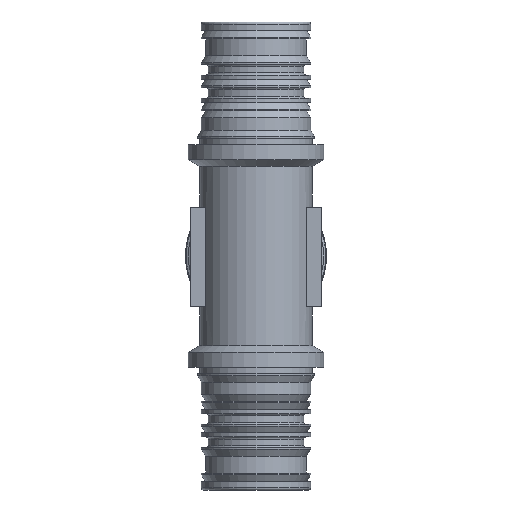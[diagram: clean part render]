
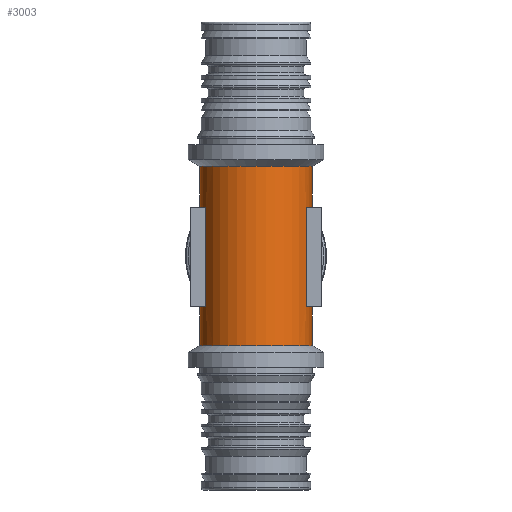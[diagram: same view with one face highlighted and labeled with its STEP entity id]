
A CAD part, front view. The second image highlights one B-rep face of the part: STEP entity #3003.
In plain terms, the highlighted cylindrical face has radius 13.25 mm (diameter 26.5 mm), a full revolution.
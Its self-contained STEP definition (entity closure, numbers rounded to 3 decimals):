
#41=B_SPLINE_CURVE_WITH_KNOTS('',3,(#4500,#4501,#4502,#4503,#4504,#4505,
#4506,#4507,#4508,#4509,#4510,#4511,#4512,#4513,#4514,#4515,#4516,#4517,
#4518,#4519,#4520,#4521),.UNSPECIFIED.,.F.,.F.,(4,2,2,2,2,2,2,2,2,2,4),
(-3.747,-3.561,-3.276,-2.742,
-2.475,-2.208,-1.941,-1.673,
-1.139,-0.854,-0.668),.UNSPECIFIED.);
#42=B_SPLINE_CURVE_WITH_KNOTS('',3,(#4533,#4534,#4535,#4536,#4537,#4538,
#4539,#4540,#4541,#4542,#4543,#4544),.UNSPECIFIED.,.F.,.F.,(4,2,2,2,2,4),
(2.208,2.475,2.742,3.276,3.561,
3.747),.UNSPECIFIED.);
#43=B_SPLINE_CURVE_WITH_KNOTS('',3,(#4551,#4552,#4553,#4554,#4555,#4556,
#4557,#4558,#4559,#4560,#4561,#4562),.UNSPECIFIED.,.F.,.F.,(4,2,2,2,2,4),
(0.668,0.854,1.139,1.673,1.941,
2.208),.UNSPECIFIED.);
#105=CYLINDRICAL_SURFACE('',#3215,13.25);
#148=FACE_BOUND('',#444,.T.);
#273=FACE_OUTER_BOUND('',#443,.T.);
#443=EDGE_LOOP('',(#2123,#2124,#2125,#2126,#2127,#2128));
#444=EDGE_LOOP('',(#2129,#2130,#2131,#2132,#2133,#2134,#2135,#2136,#2137,
#2138,#2139,#2140,#2141));
#636=LINE('',#4632,#835);
#643=LINE('',#4645,#842);
#651=LINE('',#4673,#850);
#652=LINE('',#4679,#851);
#653=LINE('',#4683,#852);
#654=LINE('',#4688,#853);
#655=LINE('',#4691,#854);
#835=VECTOR('',#3614,10.);
#842=VECTOR('',#3623,10.);
#850=VECTOR('',#3651,13.25);
#851=VECTOR('',#3658,10.);
#852=VECTOR('',#3661,10.);
#853=VECTOR('',#3666,10.);
#854=VECTOR('',#3669,10.);
#1046=CIRCLE('',#3216,13.25);
#1047=CIRCLE('',#3217,13.25);
#1048=CIRCLE('',#3218,13.25);
#1049=CIRCLE('',#3219,13.25);
#1050=CIRCLE('',#3220,13.25);
#1051=CIRCLE('',#3221,13.25);
#1052=CIRCLE('',#3222,13.25);
#1053=CIRCLE('',#3223,13.25);
#1244=VERTEX_POINT('',#4497);
#1245=VERTEX_POINT('',#4499);
#1250=VERTEX_POINT('',#4530);
#1251=VERTEX_POINT('',#4532);
#1254=VERTEX_POINT('',#4550);
#1262=VERTEX_POINT('',#4631);
#1267=VERTEX_POINT('',#4643);
#1275=VERTEX_POINT('',#4669);
#1276=VERTEX_POINT('',#4670);
#1277=VERTEX_POINT('',#4672);
#1278=VERTEX_POINT('',#4674);
#1279=VERTEX_POINT('',#4678);
#1280=VERTEX_POINT('',#4680);
#1281=VERTEX_POINT('',#4682);
#1282=VERTEX_POINT('',#4685);
#1283=VERTEX_POINT('',#4687);
#1284=VERTEX_POINT('',#4689);
#1578=EDGE_CURVE('',#1245,#1244,#41,.T.);
#1584=EDGE_CURVE('',#1251,#1250,#42,.T.);
#1588=EDGE_CURVE('',#1254,#1251,#43,.T.);
#1602=EDGE_CURVE('',#1245,#1262,#636,.T.);
#1609=EDGE_CURVE('',#1267,#1244,#643,.T.);
#1621=EDGE_CURVE('',#1275,#1276,#1046,.T.);
#1622=EDGE_CURVE('',#1275,#1277,#651,.T.);
#1623=EDGE_CURVE('',#1277,#1278,#1047,.T.);
#1624=EDGE_CURVE('',#1278,#1277,#1048,.T.);
#1625=EDGE_CURVE('',#1276,#1275,#1049,.T.);
#1626=EDGE_CURVE('',#1279,#1250,#652,.T.);
#1627=EDGE_CURVE('',#1280,#1279,#1050,.T.);
#1628=EDGE_CURVE('',#1281,#1280,#653,.T.);
#1629=EDGE_CURVE('',#1262,#1281,#1051,.T.);
#1630=EDGE_CURVE('',#1282,#1267,#1052,.T.);
#1631=EDGE_CURVE('',#1283,#1282,#654,.T.);
#1632=EDGE_CURVE('',#1284,#1283,#1053,.T.);
#1633=EDGE_CURVE('',#1254,#1284,#655,.T.);
#2123=ORIENTED_EDGE('',*,*,#1621,.F.);
#2124=ORIENTED_EDGE('',*,*,#1622,.T.);
#2125=ORIENTED_EDGE('',*,*,#1623,.T.);
#2126=ORIENTED_EDGE('',*,*,#1624,.T.);
#2127=ORIENTED_EDGE('',*,*,#1622,.F.);
#2128=ORIENTED_EDGE('',*,*,#1625,.F.);
#2129=ORIENTED_EDGE('',*,*,#1588,.T.);
#2130=ORIENTED_EDGE('',*,*,#1584,.T.);
#2131=ORIENTED_EDGE('',*,*,#1626,.F.);
#2132=ORIENTED_EDGE('',*,*,#1627,.F.);
#2133=ORIENTED_EDGE('',*,*,#1628,.F.);
#2134=ORIENTED_EDGE('',*,*,#1629,.F.);
#2135=ORIENTED_EDGE('',*,*,#1602,.F.);
#2136=ORIENTED_EDGE('',*,*,#1578,.T.);
#2137=ORIENTED_EDGE('',*,*,#1609,.F.);
#2138=ORIENTED_EDGE('',*,*,#1630,.F.);
#2139=ORIENTED_EDGE('',*,*,#1631,.F.);
#2140=ORIENTED_EDGE('',*,*,#1632,.F.);
#2141=ORIENTED_EDGE('',*,*,#1633,.F.);
#3003=ADVANCED_FACE('',(#273,#148),#105,.T.);
#3215=AXIS2_PLACEMENT_3D('',#4668,#3647,#3648);
#3216=AXIS2_PLACEMENT_3D('',#4671,#3649,#3650);
#3217=AXIS2_PLACEMENT_3D('',#4675,#3652,#3653);
#3218=AXIS2_PLACEMENT_3D('',#4676,#3654,#3655);
#3219=AXIS2_PLACEMENT_3D('',#4677,#3656,#3657);
#3220=AXIS2_PLACEMENT_3D('',#4681,#3659,#3660);
#3221=AXIS2_PLACEMENT_3D('',#4684,#3662,#3663);
#3222=AXIS2_PLACEMENT_3D('',#4686,#3664,#3665);
#3223=AXIS2_PLACEMENT_3D('',#4690,#3667,#3668);
#3614=DIRECTION('',(0.,0.,1.));
#3623=DIRECTION('',(0.,0.,-1.));
#3647=DIRECTION('center_axis',(0.,0.,1.));
#3648=DIRECTION('ref_axis',(0.,1.,0.));
#3649=DIRECTION('center_axis',(0.,0.,1.));
#3650=DIRECTION('ref_axis',(1.,0.,0.));
#3651=DIRECTION('',(0.,0.,-1.));
#3652=DIRECTION('center_axis',(0.,0.,1.));
#3653=DIRECTION('ref_axis',(1.,0.,0.));
#3654=DIRECTION('center_axis',(0.,0.,1.));
#3655=DIRECTION('ref_axis',(1.,0.,0.));
#3656=DIRECTION('center_axis',(0.,0.,1.));
#3657=DIRECTION('ref_axis',(1.,0.,0.));
#3658=DIRECTION('',(0.,0.,1.));
#3659=DIRECTION('center_axis',(0.,0.,1.));
#3660=DIRECTION('ref_axis',(0.,1.,0.));
#3661=DIRECTION('',(0.,0.,-1.));
#3662=DIRECTION('center_axis',(0.,0.,-1.));
#3663=DIRECTION('ref_axis',(0.,1.,0.));
#3664=DIRECTION('center_axis',(0.,0.,-1.));
#3665=DIRECTION('ref_axis',(0.,1.,0.));
#3666=DIRECTION('',(0.,0.,1.));
#3667=DIRECTION('center_axis',(0.,0.,1.));
#3668=DIRECTION('ref_axis',(0.,1.,0.));
#3669=DIRECTION('',(0.,0.,-1.));
#4497=CARTESIAN_POINT('',(-11.814,6.,64.493));
#4499=CARTESIAN_POINT('',(11.814,6.,64.493));
#4500=CARTESIAN_POINT('Ctrl Pts',(11.814,6.,64.493));
#4501=CARTESIAN_POINT('Ctrl Pts',(11.561,6.497,64.816));
#4502=CARTESIAN_POINT('Ctrl Pts',(11.279,6.976,65.15));
#4503=CARTESIAN_POINT('Ctrl Pts',(10.493,8.134,65.991));
#4504=CARTESIAN_POINT('Ctrl Pts',(9.953,8.785,66.497));
#4505=CARTESIAN_POINT('Ctrl Pts',(8.273,10.465,67.841));
#4506=CARTESIAN_POINT('Ctrl Pts',(6.854,11.476,68.704));
#4507=CARTESIAN_POINT('Ctrl Pts',(4.421,12.522,69.61));
#4508=CARTESIAN_POINT('Ctrl Pts',(3.56,12.795,69.849));
#4509=CARTESIAN_POINT('Ctrl Pts',(1.794,13.159,70.169));
#4510=CARTESIAN_POINT('Ctrl Pts',(0.89,13.25,70.25));
#4511=CARTESIAN_POINT('Ctrl Pts',(-0.89,13.25,70.25));
#4512=CARTESIAN_POINT('Ctrl Pts',(-1.794,13.159,70.169));
#4513=CARTESIAN_POINT('Ctrl Pts',(-3.56,12.795,69.849));
#4514=CARTESIAN_POINT('Ctrl Pts',(-4.421,12.522,69.61));
#4515=CARTESIAN_POINT('Ctrl Pts',(-6.854,11.476,68.704));
#4516=CARTESIAN_POINT('Ctrl Pts',(-8.273,10.465,67.841));
#4517=CARTESIAN_POINT('Ctrl Pts',(-9.953,8.785,66.497));
#4518=CARTESIAN_POINT('Ctrl Pts',(-10.493,8.134,65.991));
#4519=CARTESIAN_POINT('Ctrl Pts',(-11.279,6.976,65.15));
#4520=CARTESIAN_POINT('Ctrl Pts',(-11.561,6.497,64.816));
#4521=CARTESIAN_POINT('Ctrl Pts',(-11.814,6.,64.493));
#4530=CARTESIAN_POINT('',(11.814,6.,46.007));
#4532=CARTESIAN_POINT('',(0.,13.25,40.25));
#4533=CARTESIAN_POINT('Ctrl Pts',(0.,13.25,40.25));
#4534=CARTESIAN_POINT('Ctrl Pts',(0.89,13.25,40.25));
#4535=CARTESIAN_POINT('Ctrl Pts',(1.794,13.159,40.331));
#4536=CARTESIAN_POINT('Ctrl Pts',(3.56,12.795,40.651));
#4537=CARTESIAN_POINT('Ctrl Pts',(4.421,12.522,40.89));
#4538=CARTESIAN_POINT('Ctrl Pts',(6.854,11.476,41.796));
#4539=CARTESIAN_POINT('Ctrl Pts',(8.273,10.465,42.659));
#4540=CARTESIAN_POINT('Ctrl Pts',(9.953,8.785,44.003));
#4541=CARTESIAN_POINT('Ctrl Pts',(10.493,8.134,44.509));
#4542=CARTESIAN_POINT('Ctrl Pts',(11.279,6.976,45.35));
#4543=CARTESIAN_POINT('Ctrl Pts',(11.561,6.497,45.684));
#4544=CARTESIAN_POINT('Ctrl Pts',(11.814,6.,46.007));
#4550=CARTESIAN_POINT('',(-11.814,6.,46.007));
#4551=CARTESIAN_POINT('Ctrl Pts',(-11.814,6.,46.007));
#4552=CARTESIAN_POINT('Ctrl Pts',(-11.561,6.497,45.684));
#4553=CARTESIAN_POINT('Ctrl Pts',(-11.279,6.976,45.35));
#4554=CARTESIAN_POINT('Ctrl Pts',(-10.493,8.134,44.509));
#4555=CARTESIAN_POINT('Ctrl Pts',(-9.953,8.785,44.003));
#4556=CARTESIAN_POINT('Ctrl Pts',(-8.273,10.465,42.659));
#4557=CARTESIAN_POINT('Ctrl Pts',(-6.854,11.476,41.796));
#4558=CARTESIAN_POINT('Ctrl Pts',(-4.421,12.522,40.89));
#4559=CARTESIAN_POINT('Ctrl Pts',(-3.56,12.795,40.651));
#4560=CARTESIAN_POINT('Ctrl Pts',(-1.794,13.159,40.331));
#4561=CARTESIAN_POINT('Ctrl Pts',(-0.89,13.25,40.25));
#4562=CARTESIAN_POINT('Ctrl Pts',(0.,13.25,40.25));
#4631=CARTESIAN_POINT('',(11.814,6.,66.75));
#4632=CARTESIAN_POINT('',(11.814,6.,44.669));
#4643=CARTESIAN_POINT('',(-11.814,6.,66.75));
#4645=CARTESIAN_POINT('',(-11.814,6.,44.669));
#4668=CARTESIAN_POINT('Origin',(0.,0.,44.669));
#4669=CARTESIAN_POINT('',(0.,-13.25,76.412));
#4670=CARTESIAN_POINT('',(0.,13.25,76.412));
#4671=CARTESIAN_POINT('Origin',(0.,0.,76.412));
#4672=CARTESIAN_POINT('',(0.,-13.25,34.088));
#4673=CARTESIAN_POINT('',(0.,-13.25,44.669));
#4674=CARTESIAN_POINT('',(0.,13.25,34.088));
#4675=CARTESIAN_POINT('Origin',(0.,0.,34.088));
#4676=CARTESIAN_POINT('Origin',(0.,0.,34.088));
#4677=CARTESIAN_POINT('Origin',(0.,0.,76.412));
#4678=CARTESIAN_POINT('',(11.814,6.,43.25));
#4679=CARTESIAN_POINT('',(11.814,6.,44.669));
#4680=CARTESIAN_POINT('',(11.814,-6.,43.25));
#4681=CARTESIAN_POINT('Origin',(0.,0.,43.25));
#4682=CARTESIAN_POINT('',(11.814,-6.,66.75));
#4683=CARTESIAN_POINT('',(11.814,-6.,44.669));
#4684=CARTESIAN_POINT('Origin',(0.,0.,66.75));
#4685=CARTESIAN_POINT('',(-11.814,-6.,66.75));
#4686=CARTESIAN_POINT('Origin',(0.,0.,66.75));
#4687=CARTESIAN_POINT('',(-11.814,-6.,43.25));
#4688=CARTESIAN_POINT('',(-11.814,-6.,44.669));
#4689=CARTESIAN_POINT('',(-11.814,6.,43.25));
#4690=CARTESIAN_POINT('Origin',(0.,0.,43.25));
#4691=CARTESIAN_POINT('',(-11.814,6.,44.669));
